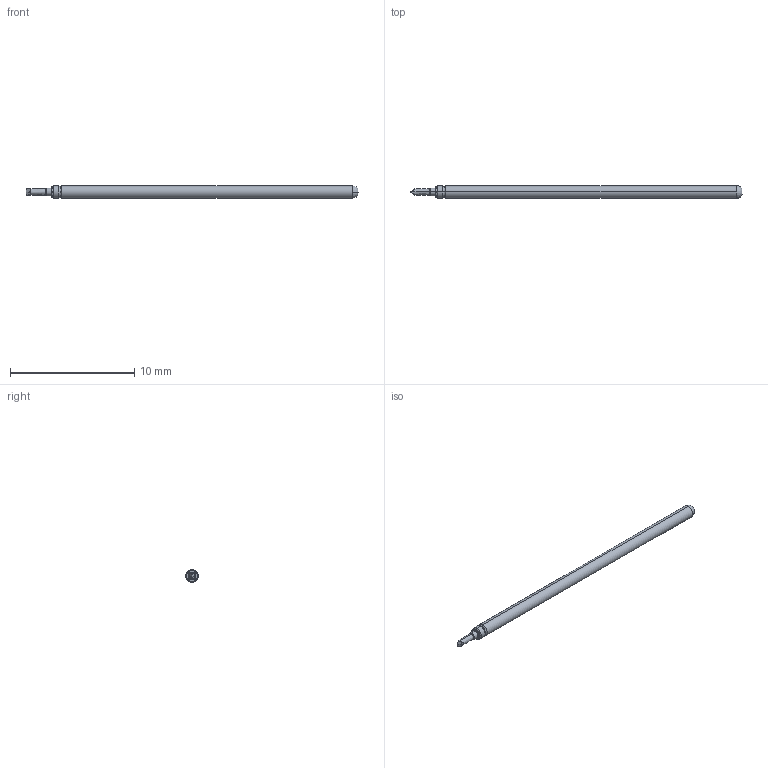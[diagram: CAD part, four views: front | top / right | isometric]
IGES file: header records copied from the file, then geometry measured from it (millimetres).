
Start section: SolidWorks IGES file using analytic representation for surfaces
Global section: file name: Z:\probe solid model mockups\Solidworks models\IGES Files\LFRE-1 IGES files\LFRE-1I15 FULL.IGS; native system: SolidWorks 2016; preprocessor: SolidWorks 2016; author: mlee; date: 180928.113445; units: inch
Bounding box: 26.67 x 1.02 x 1.02 mm (x, y, z)
Surface area: 82.5 mm2 (no closed solid volume)
Topology: 0 solids, 0 shells, 30 faces, 182 edges, 182 vertices
Faces by surface type: revolution 24, bspline 6
